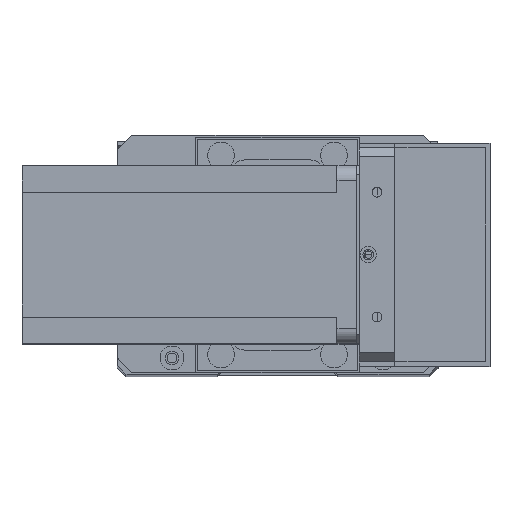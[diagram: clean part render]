
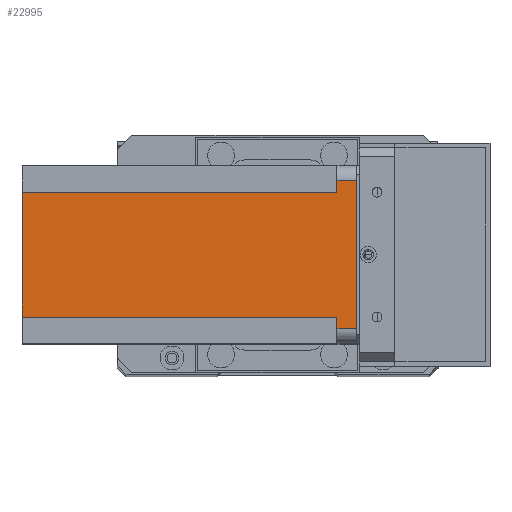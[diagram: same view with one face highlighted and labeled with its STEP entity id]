
A CAD part, top view. The second image highlights one B-rep face of the part: STEP entity #22995.
In plain terms, the highlighted planar face has unit normal (0, 0, 1) as drawn and (1, 0, 0) by its records, which use the part's own axes.
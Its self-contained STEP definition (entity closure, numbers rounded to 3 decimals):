
#440 = CARTESIAN_POINT ( 'NONE',  ( 60., 51., -6.5 ) ) ;
#452 = AXIS2_PLACEMENT_3D ( 'NONE', #9250, #24833, #11466 ) ;
#896 = VERTEX_POINT ( 'NONE', #3382 ) ;
#1548 = VERTEX_POINT ( 'NONE', #25122 ) ;
#2283 = VECTOR ( 'NONE', #16128, 1000. ) ;
#2461 = CARTESIAN_POINT ( 'NONE',  ( 60., 55., -6.5 ) ) ;
#2578 = EDGE_CURVE ( 'NONE', #12264, #14173, #7038, .T. ) ;
#2719 = ORIENTED_EDGE ( 'NONE', *, *, #10685, .F. ) ;
#2927 = VECTOR ( 'NONE', #9166, 1000. ) ;
#3326 = FACE_OUTER_BOUND ( 'NONE', #13851, .T. ) ;
#3382 = CARTESIAN_POINT ( 'NONE',  ( 60., 5., -6.5 ) ) ;
#3494 = DIRECTION ( 'NONE',  ( 0., 0., 1. ) ) ;
#3521 = DIRECTION ( 'NONE',  ( 0., -1., 0. ) ) ;
#3606 = CARTESIAN_POINT ( 'NONE',  ( 60., 9., -6.5 ) ) ;
#3704 = LINE ( 'NONE', #8144, #9683 ) ;
#4753 = ORIENTED_EDGE ( 'NONE', *, *, #19683, .F. ) ;
#6061 = EDGE_CURVE ( 'NONE', #12815, #896, #7281, .T. ) ;
#6106 = ORIENTED_EDGE ( 'NONE', *, *, #6061, .T. ) ;
#6803 = CARTESIAN_POINT ( 'NONE',  ( 60., 9., -112.5 ) ) ;
#7038 = LINE ( 'NONE', #25857, #11559 ) ;
#7237 = EDGE_CURVE ( 'NONE', #14409, #896, #19437, .T. ) ;
#7281 = LINE ( 'NONE', #12013, #13189 ) ;
#7452 = EDGE_CURVE ( 'NONE', #12264, #12981, #24994, .T. ) ;
#8144 = CARTESIAN_POINT ( 'NONE',  ( 60., 51., -112.5 ) ) ;
#8392 = EDGE_CURVE ( 'NONE', #1548, #14409, #19723, .T. ) ;
#8405 = CARTESIAN_POINT ( 'NONE',  ( 60., 51., -112.5 ) ) ;
#9166 = DIRECTION ( 'NONE',  ( 0., 1., 0. ) ) ;
#9250 = CARTESIAN_POINT ( 'NONE',  ( 60., 0., -112.5 ) ) ;
#9549 = VERTEX_POINT ( 'NONE', #8405 ) ;
#9683 = VECTOR ( 'NONE', #21513, 1000. ) ;
#9925 = CARTESIAN_POINT ( 'NONE',  ( 60., 0., -112.5 ) ) ;
#10685 = EDGE_CURVE ( 'NONE', #12981, #9549, #3704, .T. ) ;
#11466 = DIRECTION ( 'NONE',  ( 0., 1., 0. ) ) ;
#11559 = VECTOR ( 'NONE', #3494, 1000. ) ;
#12013 = CARTESIAN_POINT ( 'NONE',  ( 60., 5., -112.5 ) ) ;
#12264 = VERTEX_POINT ( 'NONE', #2461 ) ;
#12513 = EDGE_CURVE ( 'NONE', #1548, #9549, #27745, .T. ) ;
#12815 = VERTEX_POINT ( 'NONE', #15452 ) ;
#12981 = VERTEX_POINT ( 'NONE', #440 ) ;
#13189 = VECTOR ( 'NONE', #27632, 1000. ) ;
#13851 = EDGE_LOOP ( 'NONE', ( #17190, #23477, #4753, #6106, #14848, #26598, #24321, #2719 ) ) ;
#14173 = VERTEX_POINT ( 'NONE', #18380 ) ;
#14409 = VERTEX_POINT ( 'NONE', #3606 ) ;
#14848 = ORIENTED_EDGE ( 'NONE', *, *, #7237, .F. ) ;
#15452 = CARTESIAN_POINT ( 'NONE',  ( 60., 5., 0. ) ) ;
#16128 = DIRECTION ( 'NONE',  ( 0., -1., 0. ) ) ;
#17190 = ORIENTED_EDGE ( 'NONE', *, *, #7452, .F. ) ;
#18013 = CARTESIAN_POINT ( 'NONE',  ( 60., 0., 0. ) ) ;
#18380 = CARTESIAN_POINT ( 'NONE',  ( 60., 55., 0. ) ) ;
#18381 = CARTESIAN_POINT ( 'NONE',  ( 60., 0., -6.5 ) ) ;
#19063 = VECTOR ( 'NONE', #3521, 1000. ) ;
#19157 = CARTESIAN_POINT ( 'NONE',  ( 60., 60., -6.5 ) ) ;
#19437 = LINE ( 'NONE', #18381, #2283 ) ;
#19683 = EDGE_CURVE ( 'NONE', #12815, #14173, #26694, .T. ) ;
#19723 = LINE ( 'NONE', #6803, #20417 ) ;
#20417 = VECTOR ( 'NONE', #24752, 1000. ) ;
#21513 = DIRECTION ( 'NONE',  ( 0., 0., -1. ) ) ;
#22530 = VECTOR ( 'NONE', #23304, 1000. ) ;
#22614 = PLANE ( 'NONE',  #452 ) ;
#22995 = ADVANCED_FACE ( 'NONE', ( #3326 ), #22614, .T. ) ;
#23304 = DIRECTION ( 'NONE',  ( 0., 1., 0. ) ) ;
#23477 = ORIENTED_EDGE ( 'NONE', *, *, #2578, .T. ) ;
#24321 = ORIENTED_EDGE ( 'NONE', *, *, #12513, .T. ) ;
#24752 = DIRECTION ( 'NONE',  ( 0., 0., 1. ) ) ;
#24833 = DIRECTION ( 'NONE',  ( 1., 0., 0. ) ) ;
#24994 = LINE ( 'NONE', #19157, #19063 ) ;
#25122 = CARTESIAN_POINT ( 'NONE',  ( 60., 9., -112.5 ) ) ;
#25857 = CARTESIAN_POINT ( 'NONE',  ( 60., 55., -112.5 ) ) ;
#26598 = ORIENTED_EDGE ( 'NONE', *, *, #8392, .F. ) ;
#26694 = LINE ( 'NONE', #18013, #2927 ) ;
#27632 = DIRECTION ( 'NONE',  ( 0., 0., -1. ) ) ;
#27745 = LINE ( 'NONE', #9925, #22530 ) ;
